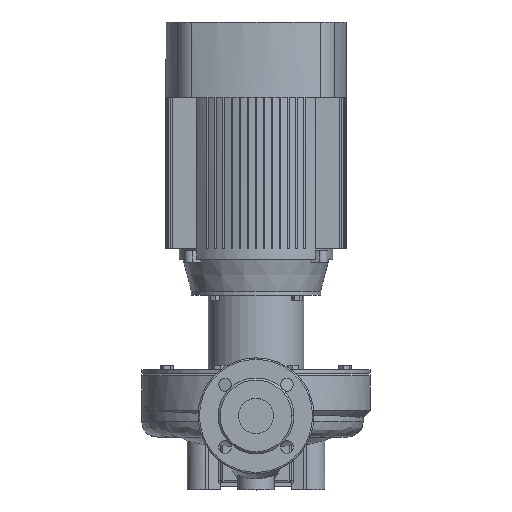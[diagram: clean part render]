
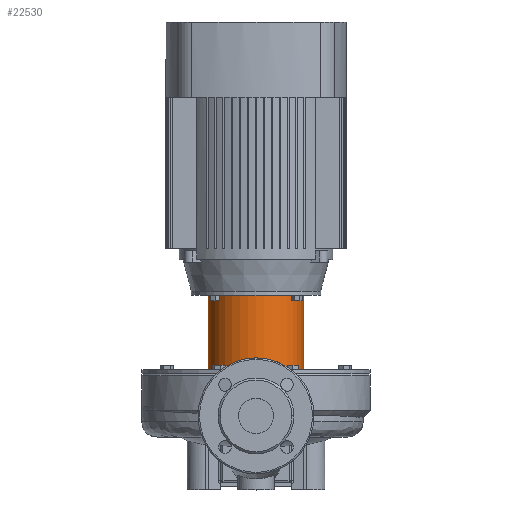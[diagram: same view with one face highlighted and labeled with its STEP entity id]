
A CAD part, top view. The second image highlights one B-rep face of the part: STEP entity #22530.
In plain terms, the highlighted cylindrical face has radius 68 mm (diameter 136 mm), a partial arc.
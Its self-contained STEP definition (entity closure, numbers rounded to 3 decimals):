
#301 = DIRECTION ( 'NONE',  ( 0., 0., 1. ) ) ;
#841 = VERTEX_POINT ( 'NONE', #11302 ) ;
#2583 = CARTESIAN_POINT ( 'NONE',  ( 0., 0., 14.36 ) ) ;
#2947 = CARTESIAN_POINT ( 'NONE',  ( 0., 0., -6. ) ) ;
#3327 = VERTEX_POINT ( 'NONE', #13496 ) ;
#4255 = ORIENTED_EDGE ( 'NONE', *, *, #26005, .F. ) ;
#4525 = CYLINDRICAL_SURFACE ( 'NONE', #7724, 68. ) ;
#4690 = CARTESIAN_POINT ( 'NONE',  ( 0., 0., -112. ) ) ;
#6155 = ORIENTED_EDGE ( 'NONE', *, *, #8635, .T. ) ;
#7263 = LINE ( 'NONE', #17320, #23525 ) ;
#7724 = AXIS2_PLACEMENT_3D ( 'NONE', #2583, #25985, #10660 ) ;
#8635 = EDGE_CURVE ( 'NONE', #3327, #841, #7263, .T. ) ;
#9059 = CIRCLE ( 'NONE', #21974, 68. ) ;
#10236 = ORIENTED_EDGE ( 'NONE', *, *, #10352, .F. ) ;
#10352 = EDGE_CURVE ( 'NONE', #16361, #17158, #13919, .T. ) ;
#10416 = AXIS2_PLACEMENT_3D ( 'NONE', #4690, #10822, #13060 ) ;
#10660 = DIRECTION ( 'NONE',  ( 1., 0., 0. ) ) ;
#10822 = DIRECTION ( 'NONE',  ( 0., 0., 1. ) ) ;
#11302 = CARTESIAN_POINT ( 'NONE',  ( -68., 0., -6. ) ) ;
#11308 = VECTOR ( 'NONE', #11535, 1000. ) ;
#11535 = DIRECTION ( 'NONE',  ( 0., 0., 1. ) ) ;
#12215 = CARTESIAN_POINT ( 'NONE',  ( 68., 0., -112. ) ) ;
#13060 = DIRECTION ( 'NONE',  ( 1., 0., 0. ) ) ;
#13256 = DIRECTION ( 'NONE',  ( 1., 0., 0. ) ) ;
#13496 = CARTESIAN_POINT ( 'NONE',  ( -68., 0., -112. ) ) ;
#13919 = LINE ( 'NONE', #16138, #11308 ) ;
#15097 = DIRECTION ( 'NONE',  ( 0., 0., 1. ) ) ;
#16138 = CARTESIAN_POINT ( 'NONE',  ( 68., 0., 14.36 ) ) ;
#16361 = VERTEX_POINT ( 'NONE', #12215 ) ;
#17158 = VERTEX_POINT ( 'NONE', #27158 ) ;
#17320 = CARTESIAN_POINT ( 'NONE',  ( -68., 0., 14.36 ) ) ;
#19142 = FACE_OUTER_BOUND ( 'NONE', #22897, .T. ) ;
#20427 = ORIENTED_EDGE ( 'NONE', *, *, #26626, .T. ) ;
#21974 = AXIS2_PLACEMENT_3D ( 'NONE', #2947, #301, #13256 ) ;
#22422 = CIRCLE ( 'NONE', #10416, 68. ) ;
#22530 = ADVANCED_FACE ( 'NONE', ( #19142 ), #4525, .T. ) ;
#22897 = EDGE_LOOP ( 'NONE', ( #20427, #6155, #4255, #10236 ) ) ;
#23525 = VECTOR ( 'NONE', #15097, 1000. ) ;
#25985 = DIRECTION ( 'NONE',  ( 0., 0., 1. ) ) ;
#26005 = EDGE_CURVE ( 'NONE', #17158, #841, #9059, .T. ) ;
#26626 = EDGE_CURVE ( 'NONE', #16361, #3327, #22422, .T. ) ;
#27158 = CARTESIAN_POINT ( 'NONE',  ( 68., 0., -6. ) ) ;
